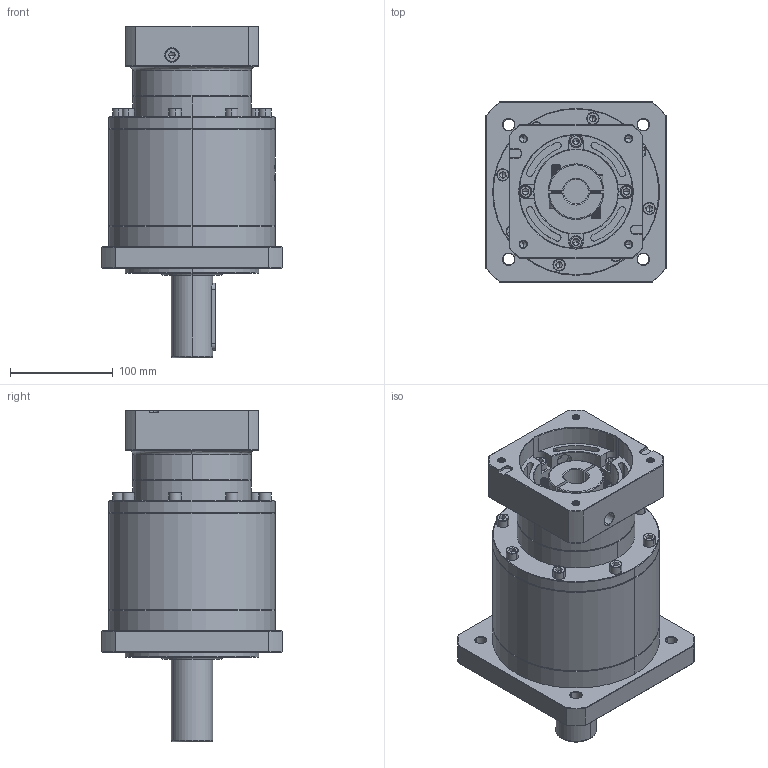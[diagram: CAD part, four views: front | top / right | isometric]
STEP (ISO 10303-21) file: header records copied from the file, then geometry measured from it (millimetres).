
FILE_DESCRIPTION (( 'STEP AP214' ), '1' );
FILE_NAME ('ZF160-D40-L3-24-110-145-M8.step', '2023-03-22T03:57:57', ( '' ), ( '' ), 'SwSTEP 2.0', 'SolidWorks 2016', '' );
FILE_SCHEMA (( 'AUTOMOTIVE_DESIGN' ));
Length unit declared in the file: millimetre
Products named in the file (1): ZF160-D40-L3-24-110-145-M8
Bounding box: 175 x 175 x 322.2 mm (x, y, z)
Volume: 4202743.5 mm3; surface area: 297236.9 mm2
Topology: 6 solids, 6 shells, 1916 faces, 4861 edges, 3065 vertices
Faces by surface type: plane 772, cylinder 511, cone 361, bspline 214, torus 58
Entity records: 102622 total; most frequent: CARTESIAN_POINT 37722, ORIENTED_EDGE 9614, DIRECTION 8435, EDGE_CURVE 4807, VERTEX_POINT 3065, AXIS2_PLACEMENT_3D 2929, LINE 2577, VECTOR 2577
